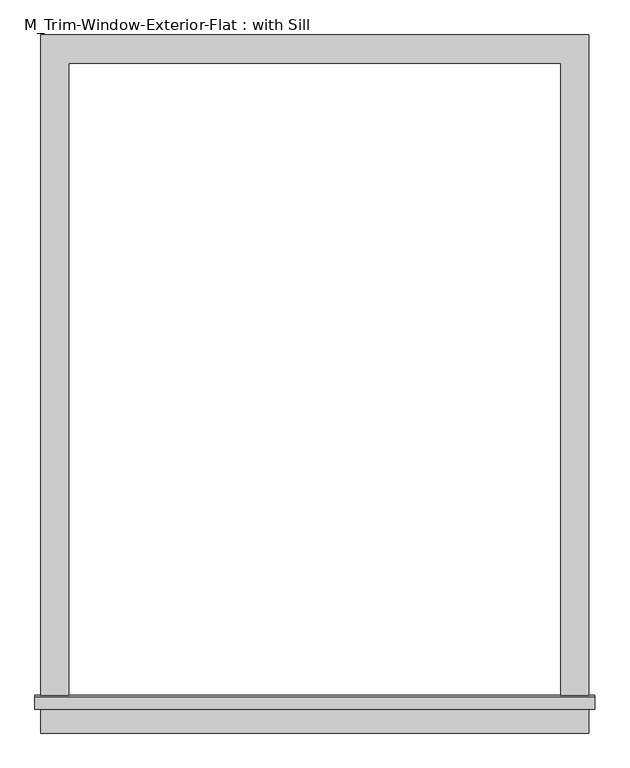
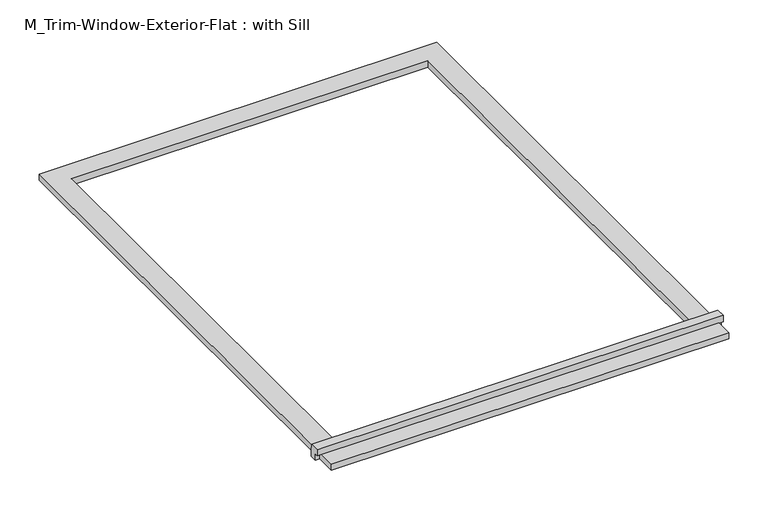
"""IFC4 building model written with IfcOpenShell, lengths in millimetres: proxy geometry, M_Trim-Window-Exterior-Flat : with Sill."""

from ifc_helpers import new_model, si_unit, frame, origin, origin_with_axes, place, context, project, spatial, polyline, outline, extrude, source, transform, mapped, element, save


def m_trim_window_exterior_flat_with_sill_96d7571b(model_context):
    return source(origin(), model_context, "Body", "SweptSolid", [
        extrude(outline(polyline([(585.0, -1370.4323709), (585.0, -1430.4323709), (-585.0, -1430.4323709), (-585.0, -1370.4323709), (585.0, -1370.4323709)])), origin_with_axes(), (0.0, 0.0, 1.0), 19.05),
        extrude(outline(polyline([(-1380.0, 38.1), (-1352.4580645, 38.1), (-1350.0, 19.05), (-1350.0, 0.0), (-1370.4323709, 0.0), (-1370.4323709, 19.05), (-1380.0, 19.05), (-1380.0, 38.1)])), frame((-597.7, 0.0, 0.0), z_axis=(1.0, 0.0, 0.0), x_axis=(0.0, 1.0, 0.0)), (0.0, 0.0, 1.0), 1195.4),
        extrude(outline(polyline([(-585.0, 60.0), (585.0, 60.0), (585.0, -1350.0), (525.0, -1350.0), (525.0, 0.0), (-525.0, 0.0), (-525.0, -1350.0), (-585.0, -1350.0), (-585.0, 60.0)])), origin_with_axes(), (0.0, 0.0, 1.0), 19.05),
    ])


if __name__ == "__main__":
    model = new_model("IFC4")
    model_context = context("Model", 3, world=origin())
    ifc_project = project(units=[si_unit("LENGTHUNIT", "METRE", prefix="MILLI")], contexts=[model_context])
    site = spatial("IfcSite", under=ifc_project)
    building = spatial("IfcBuilding", under=site)
    placement = place(None, origin())
    m_trim_window_exterior_flat_with_sill_shape = m_trim_window_exterior_flat_with_sill_96d7571b(model_context)
    element("IfcBuildingElementProxy", 1, Name="M_Trim-Window-Exterior-Flat : with Sill", ObjectType="M_Trim-Window-Exterior-Flat : with Sill", at=placement, inside=building, context=model_context, shape_type="MappedRepresentation", body=[
        mapped(m_trim_window_exterior_flat_with_sill_shape, transform((0.0, 0.0, 0.0), x_axis=(1.0, 0.0, 0.0), y_axis=(0.0, 1.0, 0.0), z_axis=(0.0, 0.0, 1.0))),
    ])
    save(model, "model.ifc")
